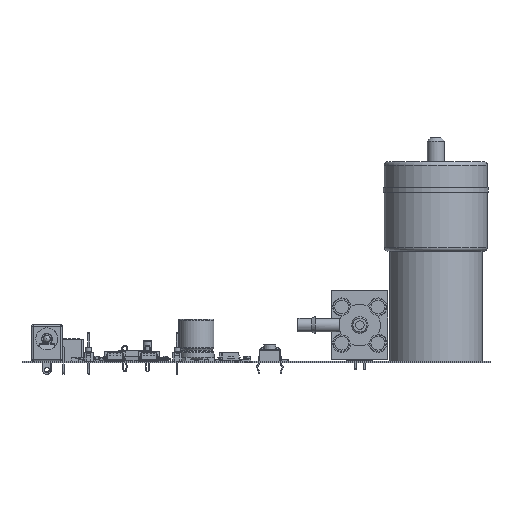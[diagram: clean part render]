
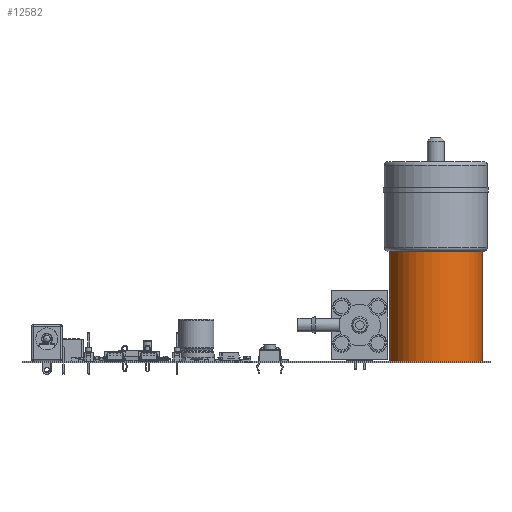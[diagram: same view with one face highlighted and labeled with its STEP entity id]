
A CAD part, front view. The second image highlights one B-rep face of the part: STEP entity #12582.
In plain terms, the highlighted cylindrical face has radius 13.5 mm (diameter 27 mm), a full revolution.
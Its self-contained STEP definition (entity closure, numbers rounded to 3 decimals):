
#12392 = EDGE_CURVE('',#12393,#12393,#12395,.T.);
#12393 = VERTEX_POINT('',#12394);
#12394 = CARTESIAN_POINT('',(-13.5,0.,32.));
#12395 = CIRCLE('',#12396,13.5);
#12396 = AXIS2_PLACEMENT_3D('',#12397,#12398,#12399);
#12397 = CARTESIAN_POINT('',(0.,0.,32.));
#12398 = DIRECTION('',(0.,0.,-1.));
#12399 = DIRECTION('',(1.,0.,0.));
#12582 = ADVANCED_FACE('',(#12583),#12611,.T.);
#12583 = FACE_BOUND('',#12584,.T.);
#12584 = EDGE_LOOP('',(#12585,#12586,#12594,#12603,#12610));
#12585 = ORIENTED_EDGE('',*,*,#12392,.T.);
#12586 = ORIENTED_EDGE('',*,*,#12587,.T.);
#12587 = EDGE_CURVE('',#12393,#12588,#12590,.T.);
#12588 = VERTEX_POINT('',#12589);
#12589 = CARTESIAN_POINT('',(-13.5,0.,0.));
#12590 = LINE('',#12591,#12592);
#12591 = CARTESIAN_POINT('',(-13.5,0.,0.));
#12592 = VECTOR('',#12593,1.);
#12593 = DIRECTION('',(0.,0.,-1.));
#12594 = ORIENTED_EDGE('',*,*,#12595,.T.);
#12595 = EDGE_CURVE('',#12588,#12596,#12598,.T.);
#12596 = VERTEX_POINT('',#12597);
#12597 = CARTESIAN_POINT('',(13.5,0.,0.));
#12598 = CIRCLE('',#12599,13.5);
#12599 = AXIS2_PLACEMENT_3D('',#12600,#12601,#12602);
#12600 = CARTESIAN_POINT('',(0.,0.,0.));
#12601 = DIRECTION('',(0.,0.,1.));
#12602 = DIRECTION('',(1.,0.,-0.));
#12603 = ORIENTED_EDGE('',*,*,#12604,.T.);
#12604 = EDGE_CURVE('',#12596,#12588,#12605,.T.);
#12605 = CIRCLE('',#12606,13.5);
#12606 = AXIS2_PLACEMENT_3D('',#12607,#12608,#12609);
#12607 = CARTESIAN_POINT('',(0.,0.,0.));
#12608 = DIRECTION('',(0.,0.,1.));
#12609 = DIRECTION('',(1.,0.,-0.));
#12610 = ORIENTED_EDGE('',*,*,#12587,.F.);
#12611 = CYLINDRICAL_SURFACE('',#12612,13.5);
#12612 = AXIS2_PLACEMENT_3D('',#12613,#12614,#12615);
#12613 = CARTESIAN_POINT('',(0.,0.,0.));
#12614 = DIRECTION('',(0.,0.,1.));
#12615 = DIRECTION('',(1.,0.,-0.));
